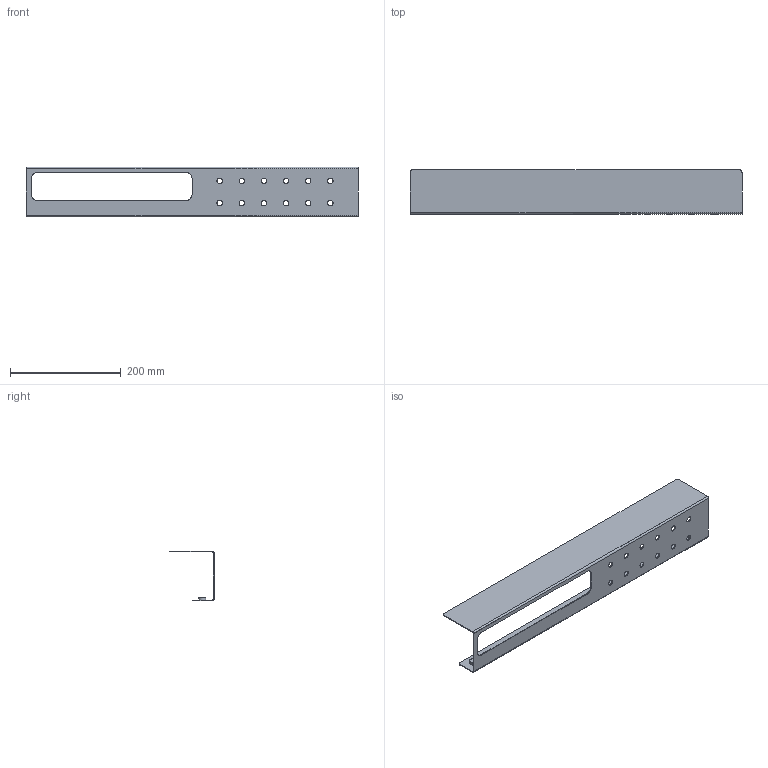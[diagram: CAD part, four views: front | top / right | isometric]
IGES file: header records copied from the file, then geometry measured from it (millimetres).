
Global section: file name: Półka łazienkowa LAVANDA M - Lewa,22; native system: HAutodesk Inventor 2017; preprocessor: unknown; author: Marcel; date: 20190715.172107; units: millimetre
Bounding box: 600 x 80 x 90 mm (x, y, z)
Volume: 162698.5 mm3; surface area: 219745.6 mm2
Topology: 1 solids, 1 shells, 56 faces, 152 edges, 102 vertices
Faces by surface type: bspline 56
